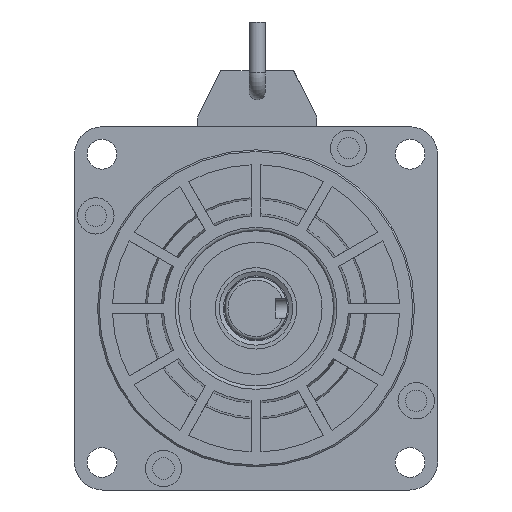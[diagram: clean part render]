
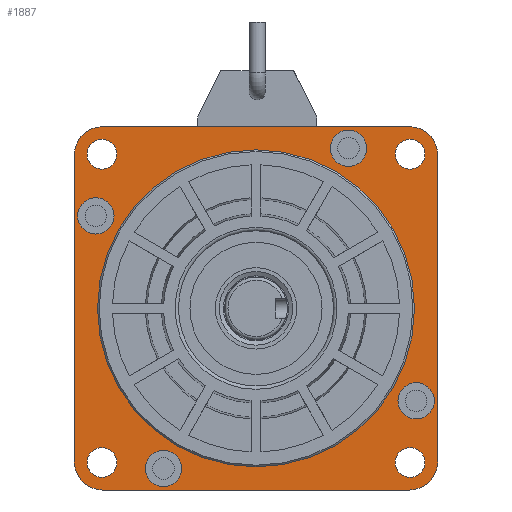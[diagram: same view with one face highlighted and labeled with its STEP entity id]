
A CAD part, front view. The second image highlights one B-rep face of the part: STEP entity #1887.
In plain terms, the highlighted planar face has unit normal (0, -1, 0).
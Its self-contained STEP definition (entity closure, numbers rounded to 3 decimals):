
#795=FACE_BOUND('',#3760,.T.);
#796=FACE_BOUND('',#3761,.T.);
#797=FACE_BOUND('',#3762,.T.);
#798=FACE_BOUND('',#3763,.T.);
#799=FACE_BOUND('',#3764,.T.);
#800=FACE_BOUND('',#3765,.T.);
#801=FACE_BOUND('',#3766,.T.);
#802=FACE_BOUND('',#3767,.T.);
#803=FACE_BOUND('',#3768,.T.);
#804=FACE_BOUND('',#3769,.T.);
#1171=CIRCLE('',#13243,8.5);
#1172=CIRCLE('',#13245,8.5);
#1173=CIRCLE('',#13247,5.5);
#1174=CIRCLE('',#13249,5.5);
#1270=CIRCLE('',#13419,48.);
#1271=CIRCLE('',#13421,4.5);
#1272=CIRCLE('',#13422,4.5);
#1273=CIRCLE('',#13423,4.5);
#1274=CIRCLE('',#13424,4.5);
#1275=CIRCLE('',#13425,8.5);
#1276=CIRCLE('',#13426,8.5);
#1277=CIRCLE('',#13427,5.5);
#1278=CIRCLE('',#13428,5.5);
#1887=ADVANCED_FACE('',(#795,#796,#797,#798,#799,#800,#801,#802,#803,#804),
#2363,.T.);
#2363=PLANE('',#13429);
#3760=EDGE_LOOP('',(#6770));
#3761=EDGE_LOOP('',(#6771));
#3762=EDGE_LOOP('',(#6772));
#3763=EDGE_LOOP('',(#6773));
#3764=EDGE_LOOP('',(#6774,#6775,#6776,#6777,#6778,#6779,#6780,#6781));
#3765=EDGE_LOOP('',(#6782));
#3766=EDGE_LOOP('',(#6783));
#3767=EDGE_LOOP('',(#6784));
#3768=EDGE_LOOP('',(#6785));
#3769=EDGE_LOOP('',(#6786));
#6770=ORIENTED_EDGE('',*,*,#10053,.T.);
#6771=ORIENTED_EDGE('',*,*,#10054,.T.);
#6772=ORIENTED_EDGE('',*,*,#10055,.T.);
#6773=ORIENTED_EDGE('',*,*,#10056,.T.);
#6774=ORIENTED_EDGE('',*,*,#10057,.T.);
#6775=ORIENTED_EDGE('',*,*,#10058,.F.);
#6776=ORIENTED_EDGE('',*,*,#9792,.T.);
#6777=ORIENTED_EDGE('',*,*,#9885,.F.);
#6778=ORIENTED_EDGE('',*,*,#9788,.T.);
#6779=ORIENTED_EDGE('',*,*,#10059,.F.);
#6780=ORIENTED_EDGE('',*,*,#10060,.T.);
#6781=ORIENTED_EDGE('',*,*,#10061,.F.);
#6782=ORIENTED_EDGE('',*,*,#9795,.T.);
#6783=ORIENTED_EDGE('',*,*,#9794,.T.);
#6784=ORIENTED_EDGE('',*,*,#10052,.F.);
#6785=ORIENTED_EDGE('',*,*,#10062,.T.);
#6786=ORIENTED_EDGE('',*,*,#10063,.T.);
#8242=VERTEX_POINT('',#20145);
#8243=VERTEX_POINT('',#20146);
#8244=VERTEX_POINT('',#20151);
#8245=VERTEX_POINT('',#20153);
#8246=VERTEX_POINT('',#20157);
#8247=VERTEX_POINT('',#20160);
#8412=VERTEX_POINT('',#20911);
#8413=VERTEX_POINT('',#20914);
#8414=VERTEX_POINT('',#20916);
#8415=VERTEX_POINT('',#20918);
#8416=VERTEX_POINT('',#20920);
#8417=VERTEX_POINT('',#20922);
#8418=VERTEX_POINT('',#20923);
#8419=VERTEX_POINT('',#20926);
#8420=VERTEX_POINT('',#20928);
#8421=VERTEX_POINT('',#20931);
#8422=VERTEX_POINT('',#20933);
#9788=EDGE_CURVE('',#8242,#8243,#1171,.T.);
#9792=EDGE_CURVE('',#8245,#8244,#1172,.T.);
#9794=EDGE_CURVE('',#8246,#8246,#1173,.T.);
#9795=EDGE_CURVE('',#8247,#8247,#1174,.T.);
#9885=EDGE_CURVE('',#8242,#8244,#11169,.T.);
#10052=EDGE_CURVE('',#8412,#8412,#1270,.T.);
#10053=EDGE_CURVE('',#8413,#8413,#1271,.T.);
#10054=EDGE_CURVE('',#8414,#8414,#1272,.T.);
#10055=EDGE_CURVE('',#8415,#8415,#1273,.T.);
#10056=EDGE_CURVE('',#8416,#8416,#1274,.T.);
#10057=EDGE_CURVE('',#8417,#8418,#1275,.T.);
#10058=EDGE_CURVE('',#8245,#8418,#11253,.T.);
#10059=EDGE_CURVE('',#8419,#8243,#11254,.T.);
#10060=EDGE_CURVE('',#8419,#8420,#1276,.T.);
#10061=EDGE_CURVE('',#8417,#8420,#11255,.T.);
#10062=EDGE_CURVE('',#8421,#8421,#1277,.T.);
#10063=EDGE_CURVE('',#8422,#8422,#1278,.T.);
#11169=LINE('',#20552,#12285);
#11253=LINE('',#20924,#12369);
#11254=LINE('',#20925,#12370);
#11255=LINE('',#20929,#12371);
#12285=VECTOR('',#16259,1.);
#12369=VECTOR('',#16583,1.);
#12370=VECTOR('',#16584,1.);
#12371=VECTOR('',#16587,1.);
#13243=AXIS2_PLACEMENT_3D('',#20144,#16088,#16089);
#13245=AXIS2_PLACEMENT_3D('',#20152,#16095,#16096);
#13247=AXIS2_PLACEMENT_3D('',#20156,#16100,#16101);
#13249=AXIS2_PLACEMENT_3D('',#20159,#16104,#16105);
#13419=AXIS2_PLACEMENT_3D('',#20910,#16569,#16570);
#13421=AXIS2_PLACEMENT_3D('',#20913,#16573,#16574);
#13422=AXIS2_PLACEMENT_3D('',#20915,#16575,#16576);
#13423=AXIS2_PLACEMENT_3D('',#20917,#16577,#16578);
#13424=AXIS2_PLACEMENT_3D('',#20919,#16579,#16580);
#13425=AXIS2_PLACEMENT_3D('',#20921,#16581,#16582);
#13426=AXIS2_PLACEMENT_3D('',#20927,#16585,#16586);
#13427=AXIS2_PLACEMENT_3D('',#20930,#16588,#16589);
#13428=AXIS2_PLACEMENT_3D('',#20932,#16590,#16591);
#13429=AXIS2_PLACEMENT_3D('',#20934,#16592,#16593);
#16088=DIRECTION('',(0.,-1.,0.));
#16089=DIRECTION('',(-1.,0.,0.));
#16095=DIRECTION('',(0.,-1.,0.));
#16096=DIRECTION('',(-1.,0.,0.));
#16100=DIRECTION('',(0.,1.,0.));
#16101=DIRECTION('',(-1.,0.,0.));
#16104=DIRECTION('',(0.,1.,0.));
#16105=DIRECTION('',(-1.,0.,0.));
#16259=DIRECTION('',(0.,0.,1.));
#16569=DIRECTION('',(0.,-1.,0.));
#16570=DIRECTION('',(-1.,0.,0.));
#16573=DIRECTION('',(0.,1.,0.));
#16574=DIRECTION('',(-1.,0.,0.));
#16575=DIRECTION('',(0.,1.,0.));
#16576=DIRECTION('',(-1.,0.,0.));
#16577=DIRECTION('',(0.,1.,0.));
#16578=DIRECTION('',(-1.,0.,0.));
#16579=DIRECTION('',(0.,1.,0.));
#16580=DIRECTION('',(-1.,0.,0.));
#16581=DIRECTION('',(0.,-1.,0.));
#16582=DIRECTION('',(-1.,0.,0.));
#16583=DIRECTION('',(1.,0.,0.));
#16584=DIRECTION('',(-1.,0.,0.));
#16585=DIRECTION('',(0.,-1.,0.));
#16586=DIRECTION('',(-1.,0.,0.));
#16587=DIRECTION('',(0.,0.,-1.));
#16588=DIRECTION('',(0.,1.,0.));
#16589=DIRECTION('',(-1.,0.,0.));
#16590=DIRECTION('',(0.,1.,0.));
#16591=DIRECTION('',(-1.,0.,0.));
#16592=DIRECTION('',(0.,-1.,0.));
#16593=DIRECTION('',(1.,0.,0.));
#20144=CARTESIAN_POINT('',(207.392,264.796,-148.75));
#20145=CARTESIAN_POINT('',(198.892,264.796,-148.75));
#20146=CARTESIAN_POINT('',(207.392,264.796,-157.25));
#20151=CARTESIAN_POINT('',(198.892,264.796,-55.75));
#20152=CARTESIAN_POINT('',(207.392,264.796,-55.75));
#20153=CARTESIAN_POINT('',(207.392,264.796,-47.25));
#20156=CARTESIAN_POINT('',(205.395,264.796,-74.25));
#20157=CARTESIAN_POINT('',(199.895,264.796,-74.25));
#20159=CARTESIAN_POINT('',(225.892,264.796,-150.747));
#20160=CARTESIAN_POINT('',(220.392,264.796,-150.747));
#20552=CARTESIAN_POINT('',(198.892,264.796,-102.25));
#20910=CARTESIAN_POINT('',(253.892,264.796,-102.25));
#20911=CARTESIAN_POINT('',(205.892,264.796,-102.25));
#20913=CARTESIAN_POINT('',(300.561,264.796,-55.581));
#20914=CARTESIAN_POINT('',(296.061,264.796,-55.581));
#20915=CARTESIAN_POINT('',(207.223,264.796,-55.581));
#20916=CARTESIAN_POINT('',(202.723,264.796,-55.581));
#20917=CARTESIAN_POINT('',(207.223,264.796,-148.919));
#20918=CARTESIAN_POINT('',(202.723,264.796,-148.919));
#20919=CARTESIAN_POINT('',(300.561,264.796,-148.919));
#20920=CARTESIAN_POINT('',(296.061,264.796,-148.919));
#20921=CARTESIAN_POINT('',(300.392,264.796,-55.75));
#20922=CARTESIAN_POINT('',(308.892,264.796,-55.75));
#20923=CARTESIAN_POINT('',(300.392,264.796,-47.25));
#20924=CARTESIAN_POINT('',(253.892,264.796,-47.25));
#20925=CARTESIAN_POINT('',(253.892,264.796,-157.25));
#20926=CARTESIAN_POINT('',(300.392,264.796,-157.25));
#20927=CARTESIAN_POINT('',(300.392,264.796,-148.75));
#20928=CARTESIAN_POINT('',(308.892,264.796,-148.75));
#20929=CARTESIAN_POINT('',(308.892,264.796,-102.25));
#20930=CARTESIAN_POINT('',(302.389,264.796,-130.25));
#20931=CARTESIAN_POINT('',(296.889,264.796,-130.25));
#20932=CARTESIAN_POINT('',(281.892,264.796,-53.753));
#20933=CARTESIAN_POINT('',(276.392,264.796,-53.753));
#20934=CARTESIAN_POINT('',(253.892,264.796,-102.25));
